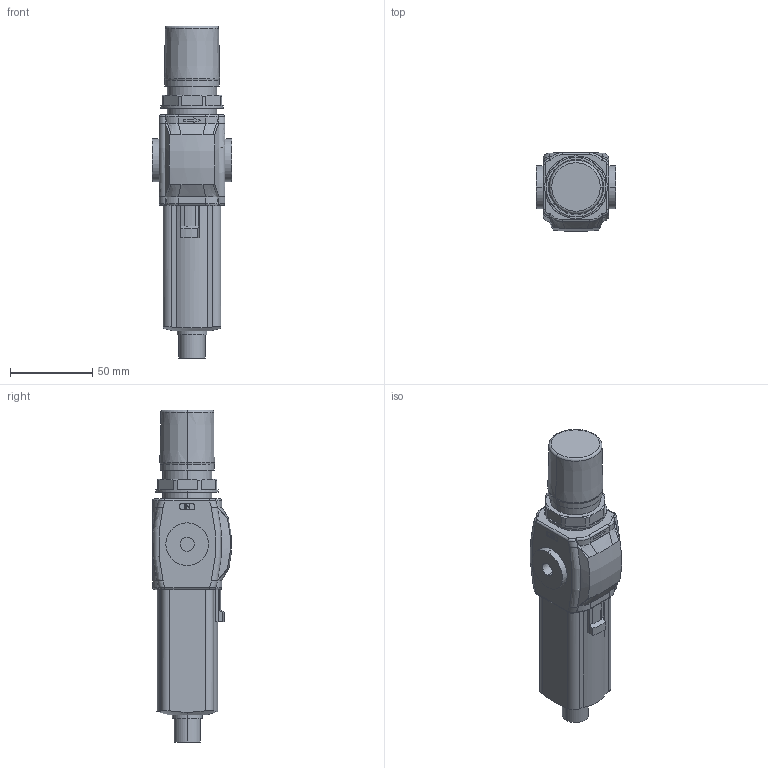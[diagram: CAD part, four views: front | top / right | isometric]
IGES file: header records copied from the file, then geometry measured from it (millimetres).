
Global section: file name: No Iges File Name specified; native system: Autodesk Inventor 2010; preprocessor: AutoDesk Inventor Iges Exporter R2010; author: valotma1; date: 20100823.141834; units: millimetre
Bounding box: 48 x 47.82 x 201.6 mm (x, y, z)
Volume: 234312.3 mm3; surface area: 35895 mm2
Topology: 2 solids, 3 shells, 367 faces, 882 edges, 560 vertices
Faces by surface type: plane 151, bspline 79, cylinder 69, revolution 34, torus 22, cone 12
